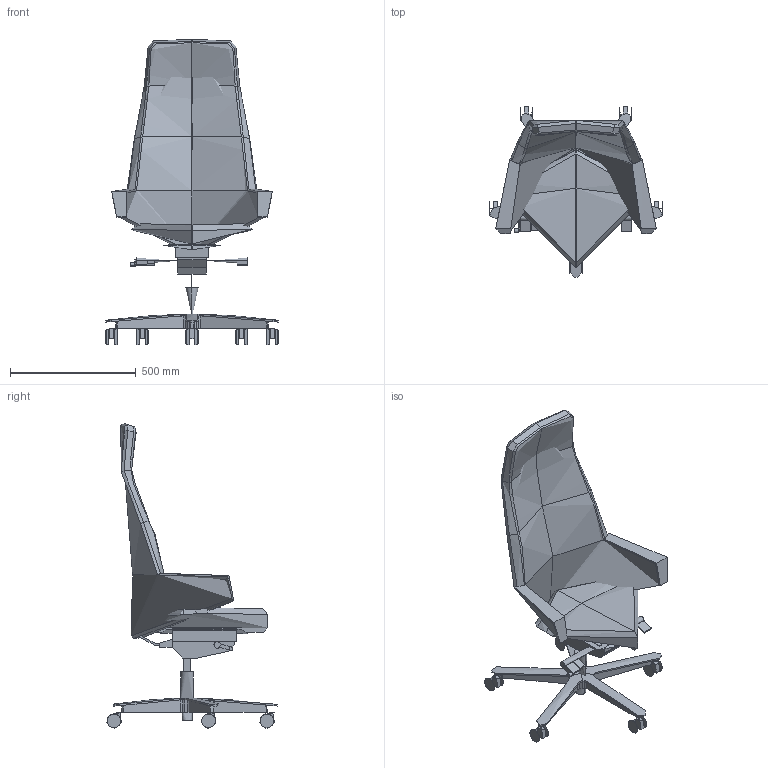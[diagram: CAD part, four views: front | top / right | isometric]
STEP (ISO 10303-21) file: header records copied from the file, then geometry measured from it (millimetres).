
FILE_DESCRIPTION(/* description */ (''),/* implementation_level */ '2;1');
FILE_NAME(/* name */ 'CHARM8~1',/* time_stamp */ '2017-10-05T15:11:07+02:00',/* author */ (''),/* organization */ (''),/* preprocessor_version */ 'ST-DEVELOPER v15',/* originating_system */ '',/* authorisation */ '');
FILE_SCHEMA (('CONFIG_CONTROL_DESIGN'));
Length unit declared in the file: millimetre
Products named in the file (1): Document
Bounding box: 689.11 x 677.24 x 1211.86 mm (x, y, z)
Volume: 3506543.6 mm3; surface area: 2585836.7 mm2
Topology: 10 solids, 46 shells, 391 faces, 996 edges, 635 vertices
Faces by surface type: bspline 270, plane 121
Entity records: 27085 total; most frequent: CARTESIAN_POINT 21428, ORIENTED_EDGE 1725, EDGE_CURVE 973, VERTEX_POINT 635, B_SPLINE_CURVE_WITH_KNOTS 497, ADVANCED_FACE 391, FACE_OUTER_BOUND 391, EDGE_LOOP 391
